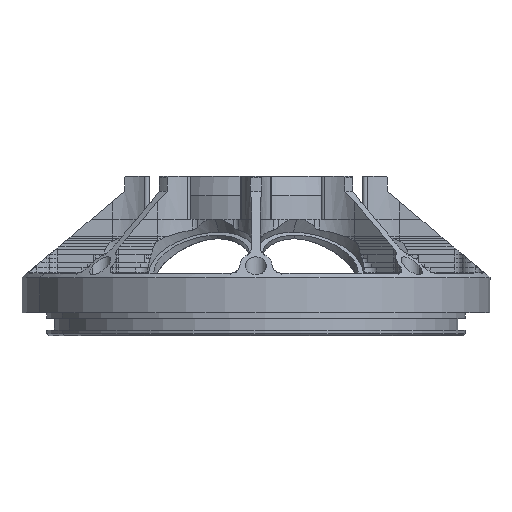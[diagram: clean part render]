
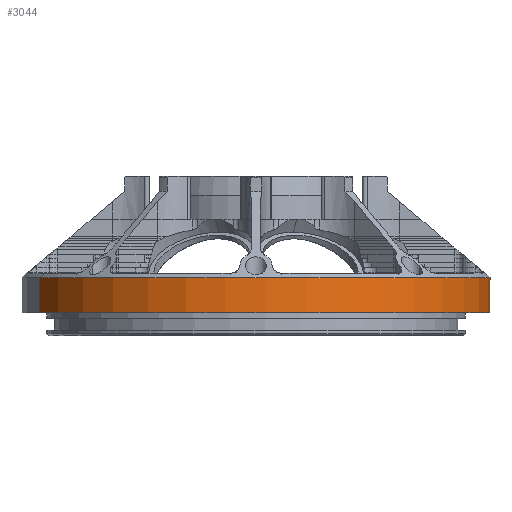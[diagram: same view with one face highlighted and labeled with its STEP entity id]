
A CAD part, left-side view. The second image highlights one B-rep face of the part: STEP entity #3044.
In plain terms, the highlighted cylindrical face has radius 79.8 mm (diameter 159.6 mm), a partial arc.
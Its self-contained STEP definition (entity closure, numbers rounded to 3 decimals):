
#3044=ADVANCED_FACE('',(#5073),#19080,.T.);
#5073=FACE_OUTER_BOUND('',#7102,.F.);
#7102=EDGE_LOOP('',(#9328,#9329,#9330,#9331));
#9328=ORIENTED_EDGE('',*,*,#37547,.T.);
#9329=ORIENTED_EDGE('',*,*,#37499,.F.);
#9330=ORIENTED_EDGE('',*,*,#37548,.F.);
#9331=ORIENTED_EDGE('',*,*,#37559,.T.);
#19080=CYLINDRICAL_SURFACE('',#49423,79.8);
#32855=LINE('',#64955,#34799);
#32856=LINE('',#64956,#34800);
#34799=VECTOR('',#51845,11.907);
#34800=VECTOR('',#51846,11.907);
#37499=EDGE_CURVE('',#47234,#47233,#42373,.T.);
#37547=EDGE_CURVE('',#47190,#47233,#32855,.T.);
#37548=EDGE_CURVE('',#47189,#47234,#32856,.T.);
#37559=EDGE_CURVE('',#47189,#47190,#42419,.T.);
#42373=CIRCLE('',#47503,79.8);
#42419=CIRCLE('',#47549,79.8);
#47189=VERTEX_POINT('',#64812);
#47190=VERTEX_POINT('',#64813);
#47233=VERTEX_POINT('',#64856);
#47234=VERTEX_POINT('',#64857);
#47503=AXIS2_PLACEMENT_3D('',#64907,#51751,#51752);
#47549=AXIS2_PLACEMENT_3D('',#64967,#51857,#51858);
#49423=AXIS2_PLACEMENT_3D('',#73748,#57343,#57344);
#51751=DIRECTION('',(0.,0.,-1.));
#51752=DIRECTION('',(0.383,-0.924,0.));
#51845=DIRECTION('',(0.,0.,1.));
#51846=DIRECTION('',(0.,0.,1.));
#51857=DIRECTION('',(0.,0.,-1.));
#51858=DIRECTION('',(0.383,-0.924,0.));
#57343=DIRECTION('',(0.,0.,-1.));
#57344=DIRECTION('',(0.383,-0.924,0.));
#64812=CARTESIAN_POINT('',(314.913,345.481,279.974));
#64813=CARTESIAN_POINT('',(253.837,492.933,279.974));
#64856=CARTESIAN_POINT('',(253.837,492.933,291.88));
#64857=CARTESIAN_POINT('',(314.913,345.481,291.88));
#64907=CARTESIAN_POINT('',(284.375,419.207,291.88));
#64955=CARTESIAN_POINT('',(253.837,492.933,279.974));
#64956=CARTESIAN_POINT('',(314.913,345.481,279.974));
#64967=CARTESIAN_POINT('',(284.375,419.207,279.974));
#73748=CARTESIAN_POINT('',(284.375,419.207,279.974));
